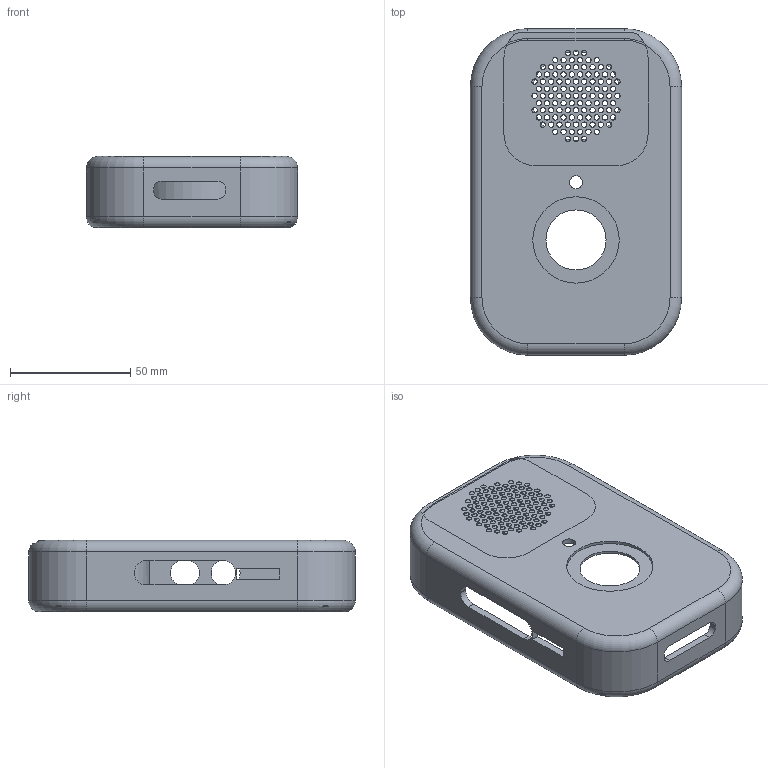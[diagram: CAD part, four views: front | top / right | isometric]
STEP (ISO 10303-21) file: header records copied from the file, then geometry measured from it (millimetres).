
FILE_DESCRIPTION(('Open CASCADE Model'),'2;1');
FILE_NAME('Open CASCADE Shape Model','2026-09-02T15:45:50',('Author'),( 'Open CASCADE'),'Open CASCADE STEP processor 7.7','Open CASCADE 7.7' ,'Unknown');
FILE_SCHEMA(('AUTOMOTIVE_DESIGN { 1 0 10303 214 1 1 1 1 }'));
Length unit declared in the file: millimetre
Products named in the file (1): Open CASCADE STEP translator 7.7 1
Bounding box: 88 x 136 x 29.65 mm (x, y, z)
Volume: 51301.1 mm3; surface area: 53084.2 mm2
Topology: 1 solids, 1 shells, 364 faces, 1104 edges, 728 vertices
Faces by surface type: cylinder 277, plane 79, torus 8
Full cylindrical faces by diameter (mm): 1.8 x2, 1.9 x4, 2.2 x218, 5.4 x1, 25 x1, 36 x1, 37 x1, 40.8 x1, 44.6 x1
Entity records: 29615 total; most frequent: CARTESIAN_POINT 8071, DIRECTION 3929, ORIENTED_EDGE 2208, PCURVE 2208, DEFINITIONAL_REPRESENTATION 2208, LINE 1704, VECTOR 1704, EDGE_CURVE 1104
